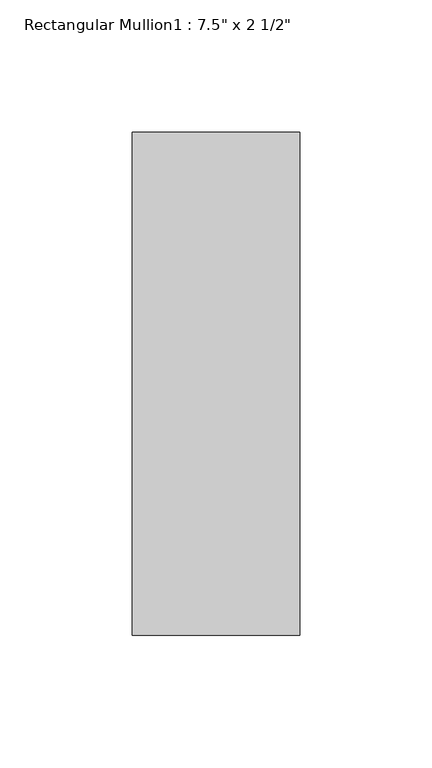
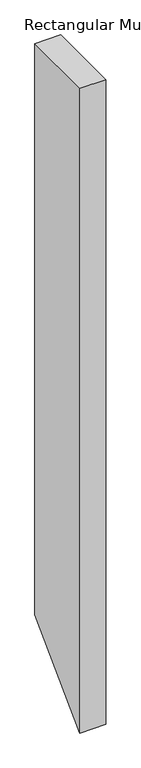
"""IFC4 building model written with IfcOpenShell, lengths in millimetres: member geometry."""

from ifc_helpers import new_model, si_unit, frame, origin, place, context, project, spatial, polyline, outline, extrude, source, transform, mapped, element, save


def member_253b22b0(model_context):
    return source(origin(), model_context, "Body", "SweptSolid", [
        extrude(outline(polyline([(-25.4, 0.0), (165.1, 0.0), (165.1, -1474.0033425), (-25.4, -1664.5033425), (-25.4, 0.0)])), frame((-63.5, 0.0, 0.0), z_axis=(1.0, 0.0, 0.0), x_axis=(0.0, 1.0, 0.0)), (0.0, 0.0, 1.0), 63.5),
    ])


if __name__ == "__main__":
    model = new_model("IFC4")
    model_context = context("Model", 3, world=origin())
    ifc_project = project(units=[si_unit("LENGTHUNIT", "METRE", prefix="MILLI")], contexts=[model_context])
    site = spatial("IfcSite", under=ifc_project)
    building = spatial("IfcBuilding", under=site)
    placement = place(None, origin())
    member_shape = member_253b22b0(model_context)
    element("IfcMember", 1, ObjectType="Rectangular Mullion1 : 7.5\" x 2 1/2\"", at=placement, inside=building, context=model_context, shape_type="MappedRepresentation", body=[
        mapped(member_shape, transform((0.0, 0.0, 0.0), x_axis=(1.0, 0.0, 0.0), y_axis=(0.0, 1.0, 0.0), z_axis=(0.0, 0.0, 1.0))),
    ])
    save(model, "model.ifc")
